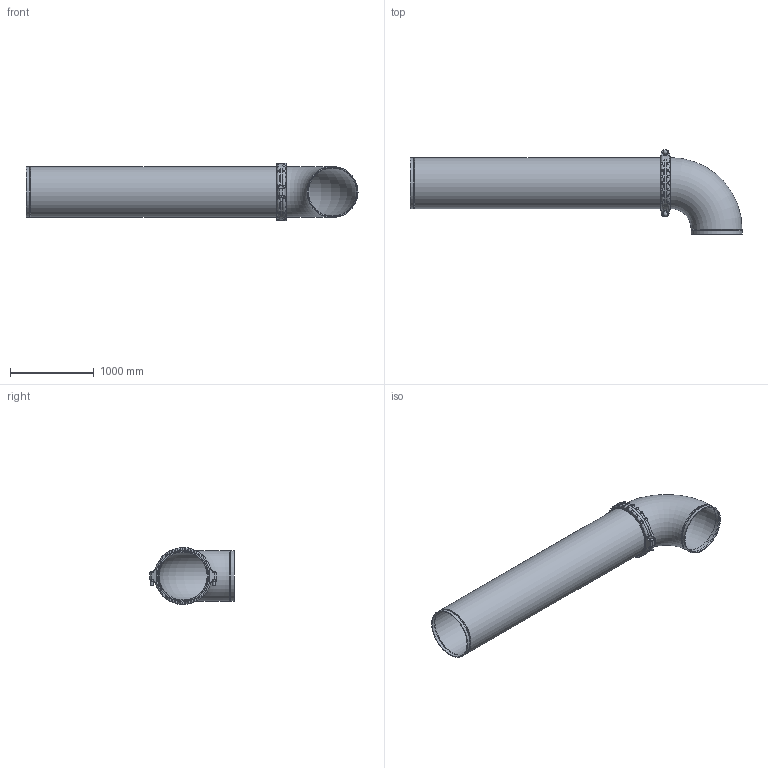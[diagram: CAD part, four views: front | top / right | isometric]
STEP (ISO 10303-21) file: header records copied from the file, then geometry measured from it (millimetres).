
FILE_DESCRIPTION(/* description */ ('VIC AGS LONG RUN FITTING No WR23 (AGS)','CAx-IF Rec.Pracs.---Representation and Presentation of Product Manufacturing Information (PMI)---4.0---2014-10-13'),/* implementation_level */ '2;1');
FILE_NAME(/* name */ 'C:\Users\kkamble\AppData\Roaming\Autodesk\ApplicationPlugins\Back Up\Victaulic_AGS_Long Run Fittings_No WR23 (AGS)\Victaulic_AGS_Long Run Fittings_No WR23 (AGS)_24 (600).stp',/* time_stamp */ '2020-10-07T02:22:33+06:00',/* author */ ('kkamble'),/* organization */ ('Victaulic'),/* preprocessor_version */ 'ST-DEVELOPER v17.2',/* originating_system */ 'Autodesk Inventor 2019',/* authorisation */ '');
FILE_SCHEMA (('AP242_MANAGED_MODEL_BASED_3D_ENGINEERING_MIM_LF { 1 0 10303 442 1 1 4 }'));
Length unit declared in the file: inch
Products named in the file (4): WR23-24.0; WR23-24.0_1; W77-24.0; W10-24.0
Assembly tree (3 placements, depth 2):
  WR23-24.0
    WR23-24.0_1
    W77-24.0
    W10-24.0
Bounding box: 3970.27 x 1006.48 x 682.72 mm (x, y, z)
Volume: 93622947.3 mm3; surface area: 16018100.4 mm2
Topology: 3 solids, 5 shells, 287 faces, 838 edges, 573 vertices
Faces by surface type: cylinder 121, plane 106, torus 50, cone 8, sphere 2
Full cylindrical faces by diameter (mm): 28.575 x4, 47.625 x2, 575.564 x2, 584.2 x1, 590.55 x1, 596.9 x4, 609.6 x9
Entity records: 12286 total; most frequent: CARTESIAN_POINT 4201, ORIENTED_EDGE 1676, DIRECTION 1577, EDGE_CURVE 838, AXIS2_PLACEMENT_3D 637, VERTEX_POINT 573, CIRCLE 339, EDGE_LOOP 309
